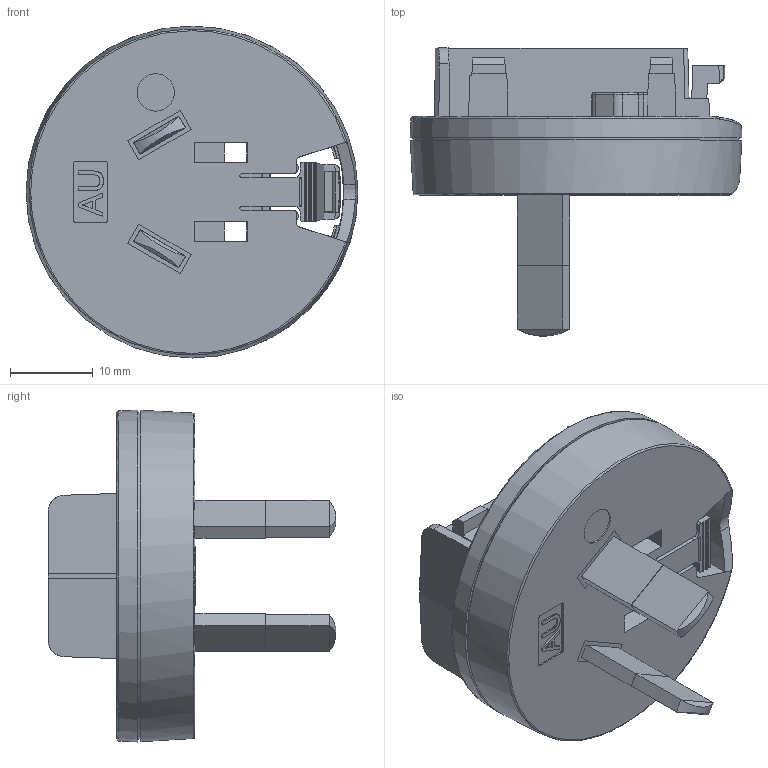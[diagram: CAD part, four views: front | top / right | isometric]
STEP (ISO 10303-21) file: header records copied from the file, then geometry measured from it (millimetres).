
FILE_DESCRIPTION(/* description */ (''),/* implementation_level */ '2;1');
FILE_NAME(/* name */ 'C:\作業區\插頭\5OE0004901H8.stp',/* time_stamp */ '2019-11-06T17:18:10+08:00',/* author */ ('user'),/* organization */ (''),/* preprocessor_version */ 'ST-DEVELOPER v16.1',/* originating_system */ 'Autodesk Inventor 2016',/* authorisation */ '');
FILE_SCHEMA (('AUTOMOTIVE_DESIGN { 1 0 10303 214 3 1 1 }'));
Length unit declared in the file: millimetre
Products named in the file (9): PRT0007_AU_________V_BOTTOM_ANY; ASM0004_ASM_1_ASM_ASM_AU________ASM; FSP065-10AABA_AU PLUG_20150612; 65W_AU_PLUG_20150331_ANY_ASM_AS_ASM; 120404-1_2_1_1; 120404-2_2_1_1; AU-PLUG-120404_ASM_8_ASM_1_ASM__ASM_1; 65W_AU_PLUG_20150331_ASM_ASM_AS_ASM; 5OE0004901H8
Assembly tree (9 placements, depth 5):
  5OE0004901H8
    65W_AU_PLUG_20150331_ASM_ASM_AS_ASM
      65W_AU_PLUG_20150331_ANY_ASM_AS_ASM
        ASM0004_ASM_1_ASM_ASM_AU________ASM
          PRT0007_AU_________V_BOTTOM_ANY
        FSP065-10AABA_AU PLUG_20150612
      AU-PLUG-120404_ASM_8_ASM_1_ASM__ASM_1  x2
        120404-1_2_1_1
        120404-2_2_1_1
Bounding box: 40.02 x 34.69 x 40.02 mm (x, y, z)
Volume: 10449.5 mm3; surface area: 11199.9 mm2
Topology: 6 solids, 6 shells, 710 faces, 2015 edges, 1332 vertices
Faces by surface type: plane 561, cylinder 89, cone 40, torus 12, bspline 8
Full cylindrical faces by diameter (mm): 4.5 x1, 37.8 x1, 39.4 x1
Entity records: 22543 total; most frequent: CARTESIAN_POINT 5476, ORIENTED_EDGE 3674, DIRECTION 3321, EDGE_CURVE 1837, LINE 1455, VECTOR 1455, VERTEX_POINT 1217, AXIS2_PLACEMENT_3D 933
